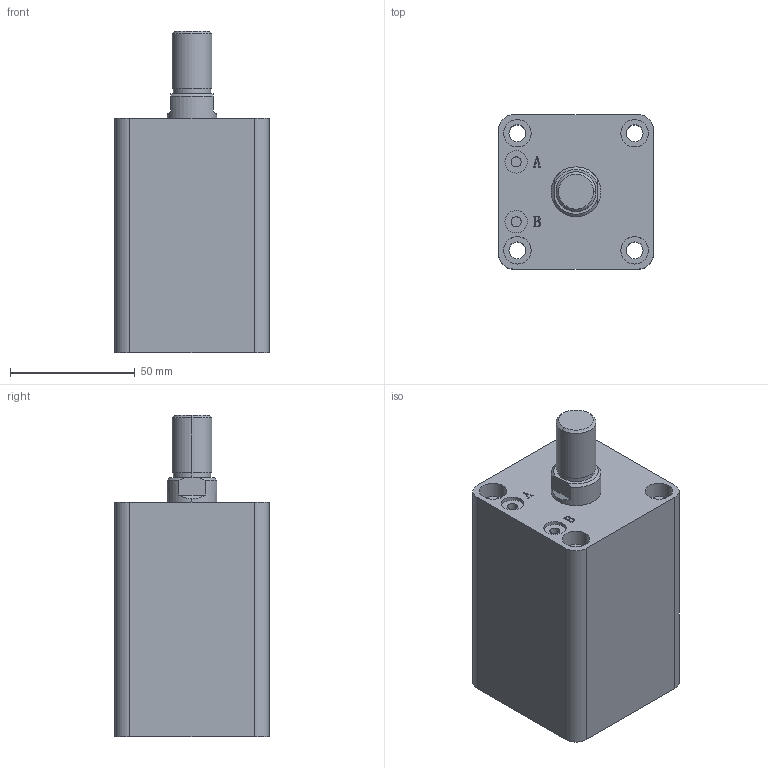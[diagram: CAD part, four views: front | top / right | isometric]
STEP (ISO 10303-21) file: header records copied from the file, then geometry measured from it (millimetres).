
FILE_DESCRIPTION (( 'STEP AP203' ), '1' );
FILE_NAME ('HTB-SDMA32-40W.STEP', '2019-10-07T11:40:47', ( '微软用户' ), ( '微软中国' ), 'SwSTEP 2.0', 'SolidWorks 2012', '' );
FILE_SCHEMA (( 'CONFIG_CONTROL_DESIGN' ));
Length unit declared in the file: millimetre
Products named in the file (3): HTB-SDMA32-40W; HTB-SDMA32-40W活塞杆; HTB-SDMA32-40掛极
Assembly tree (2 placements, depth 2):
  HTB-SDMA32-40W
    HTB-SDMA32-40掛极
    HTB-SDMA32-40W活塞杆
Bounding box: 62 x 62 x 129 mm (x, y, z)
Volume: 329555.5 mm3; surface area: 56612 mm2
Topology: 2 solids, 2 shells, 141 faces, 337 edges, 222 vertices
Faces by surface type: plane 67, cylinder 48, bspline 16, torus 6, cone 4
Entity records: 5176 total; most frequent: CARTESIAN_POINT 1593, ORIENTED_EDGE 674, DIRECTION 669, EDGE_CURVE 337, AXIS2_PLACEMENT_3D 242, VERTEX_POINT 222, VECTOR 185, LINE 185
